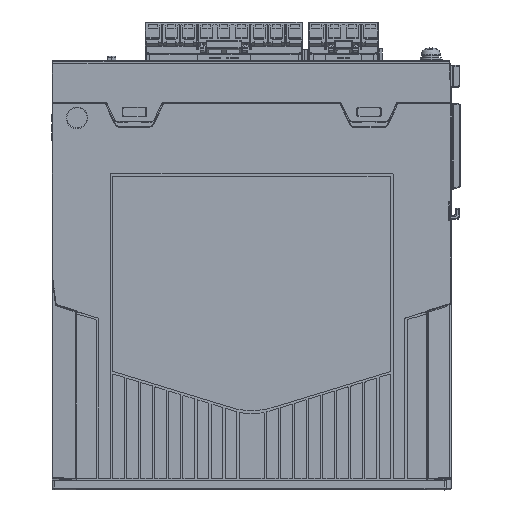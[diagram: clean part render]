
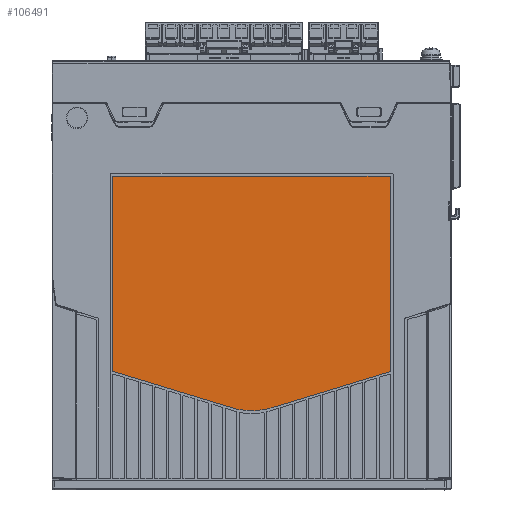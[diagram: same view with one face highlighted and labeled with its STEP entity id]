
A CAD part, left-side view. The second image highlights one B-rep face of the part: STEP entity #106491.
In plain terms, the highlighted planar face has unit normal (-1, 0, 0).
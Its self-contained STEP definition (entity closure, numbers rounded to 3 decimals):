
#35772=DIRECTION('',(0.,0.,-1.));
#35773=VECTOR('',#35772,82.738);
#35774=CARTESIAN_POINT('',(-55.9,134.302,-31.465));
#35775=LINE('',#35774,#35773);
#35793=DIRECTION('',(0.,1.,0.));
#35794=VECTOR('',#35793,118.);
#35795=CARTESIAN_POINT('',(-55.9,16.002,-31.165));
#35796=LINE('',#35795,#35794);
#35814=DIRECTION('',(0.,0.,1.));
#35815=VECTOR('',#35814,82.738);
#35816=CARTESIAN_POINT('',(-55.9,15.702,-114.203));
#35817=LINE('',#35816,#35815);
#35849=CARTESIAN_POINT('',(-55.9,16.002,-114.203));
#35850=DIRECTION('',(1.,0.,0.));
#35851=DIRECTION('',(0.,-1.,0.));
#35852=AXIS2_PLACEMENT_3D('',#35849,#35850,#35851);
#35857=DIRECTION('',(0.,0.956,-0.292));
#35858=VECTOR('',#35857,52.616);
#35859=CARTESIAN_POINT('',(-55.9,15.914,-114.49));
#35860=LINE('',#35859,#35858);
#35864=CARTESIAN_POINT('',(-55.9,75.002,-101.184));
#35865=DIRECTION('',(1.,0.,0.));
#35866=DIRECTION('',(0.,-0.292,-0.956));
#35867=AXIS2_PLACEMENT_3D('',#35864,#35865,#35866);
#35872=CARTESIAN_POINT('',(-55.9,75.002,-101.184));
#35873=DIRECTION('',(1.,0.,0.));
#35874=DIRECTION('',(0.,0.,-1.));
#35875=AXIS2_PLACEMENT_3D('',#35872,#35873,#35874);
#35880=DIRECTION('',(0.,0.956,0.292));
#35881=VECTOR('',#35880,52.616);
#35882=CARTESIAN_POINT('',(-55.9,83.773,-129.874));
#35883=LINE('',#35882,#35881);
#35887=CARTESIAN_POINT('',(-55.9,134.002,-114.203));
#35888=DIRECTION('',(1.,0.,0.));
#35889=DIRECTION('',(0.,0.292,-0.956));
#35890=AXIS2_PLACEMENT_3D('',#35887,#35888,#35889);
#35895=CARTESIAN_POINT('',(-55.9,134.002,-31.465));
#35896=DIRECTION('',(1.,0.,0.));
#35897=DIRECTION('',(0.,1.,0.));
#35898=AXIS2_PLACEMENT_3D('',#35895,#35896,#35897);
#35903=CARTESIAN_POINT('',(-55.9,16.002,-31.465));
#35904=DIRECTION('',(1.,0.,0.));
#35905=DIRECTION('',(0.,0.,1.));
#35906=AXIS2_PLACEMENT_3D('',#35903,#35904,#35905);
#70785=CARTESIAN_POINT('',(-55.9,134.089,-114.49));
#70786=VERTEX_POINT('',#70785);
#70787=CARTESIAN_POINT('',(-55.9,83.773,-129.874));
#70788=VERTEX_POINT('',#70787);
#70789=CARTESIAN_POINT('',(-55.9,134.302,-114.203));
#70790=VERTEX_POINT('',#70789);
#70791=CARTESIAN_POINT('',(-55.9,134.302,-31.465));
#70792=VERTEX_POINT('',#70791);
#70793=CARTESIAN_POINT('',(-55.9,134.002,-31.165));
#70794=VERTEX_POINT('',#70793);
#70795=CARTESIAN_POINT('',(-55.9,16.002,-31.165));
#70796=VERTEX_POINT('',#70795);
#70797=CARTESIAN_POINT('',(-55.9,15.702,-31.465));
#70798=VERTEX_POINT('',#70797);
#70799=CARTESIAN_POINT('',(-55.9,15.702,-114.203));
#70800=VERTEX_POINT('',#70799);
#70801=CARTESIAN_POINT('',(-55.9,15.914,-114.49));
#70802=VERTEX_POINT('',#70801);
#70803=CARTESIAN_POINT('',(-55.9,66.23,-129.874));
#70804=VERTEX_POINT('',#70803);
#70805=CARTESIAN_POINT('',(-55.9,75.002,-131.184));
#70806=VERTEX_POINT('',#70805);
#106473=CARTESIAN_POINT('',(-55.9,75.002,-80.35));
#106474=DIRECTION('',(-1.,0.,0.));
#106475=DIRECTION('',(0.,0.,1.));
#106476=AXIS2_PLACEMENT_3D('',#106473,#106474,#106475);
#106477=PLANE('',#106476);
#106478=ORIENTED_EDGE('',*,*,#106437,.T.);
#106479=ORIENTED_EDGE('',*,*,#106451,.T.);
#106480=ORIENTED_EDGE('',*,*,#106467,.T.);
#106481=ORIENTED_EDGE('',*,*,#106465,.T.);
#106482=ORIENTED_EDGE('',*,*,#106338,.T.);
#106483=ORIENTED_EDGE('',*,*,#106353,.T.);
#106484=ORIENTED_EDGE('',*,*,#106367,.F.);
#106485=ORIENTED_EDGE('',*,*,#106381,.T.);
#106486=ORIENTED_EDGE('',*,*,#106395,.F.);
#106487=ORIENTED_EDGE('',*,*,#106409,.T.);
#106488=ORIENTED_EDGE('',*,*,#106423,.F.);
#106489=EDGE_LOOP('',(#106478,#106479,#106480,#106481,#106482,#106483,#106484,
#106485,#106486,#106487,#106488));
#106490=FACE_OUTER_BOUND('',#106489,.F.);
#35853=CIRCLE('',#35852,0.3);
#35868=CIRCLE('',#35867,30.);
#35876=CIRCLE('',#35875,30.);
#35891=CIRCLE('',#35890,0.3);
#35899=CIRCLE('',#35898,0.3);
#35907=CIRCLE('',#35906,0.3);
#106338=EDGE_CURVE('',#70788,#70786,#35883,.T.);
#106353=EDGE_CURVE('',#70786,#70790,#35891,.T.);
#106367=EDGE_CURVE('',#70792,#70790,#35775,.T.);
#106381=EDGE_CURVE('',#70792,#70794,#35899,.T.);
#106395=EDGE_CURVE('',#70796,#70794,#35796,.T.);
#106409=EDGE_CURVE('',#70796,#70798,#35907,.T.);
#106423=EDGE_CURVE('',#70800,#70798,#35817,.T.);
#106437=EDGE_CURVE('',#70800,#70802,#35853,.T.);
#106451=EDGE_CURVE('',#70802,#70804,#35860,.T.);
#106465=EDGE_CURVE('',#70806,#70788,#35876,.T.);
#106467=EDGE_CURVE('',#70804,#70806,#35868,.T.);
#106491=ADVANCED_FACE('',(#106490),#106477,.T.);
